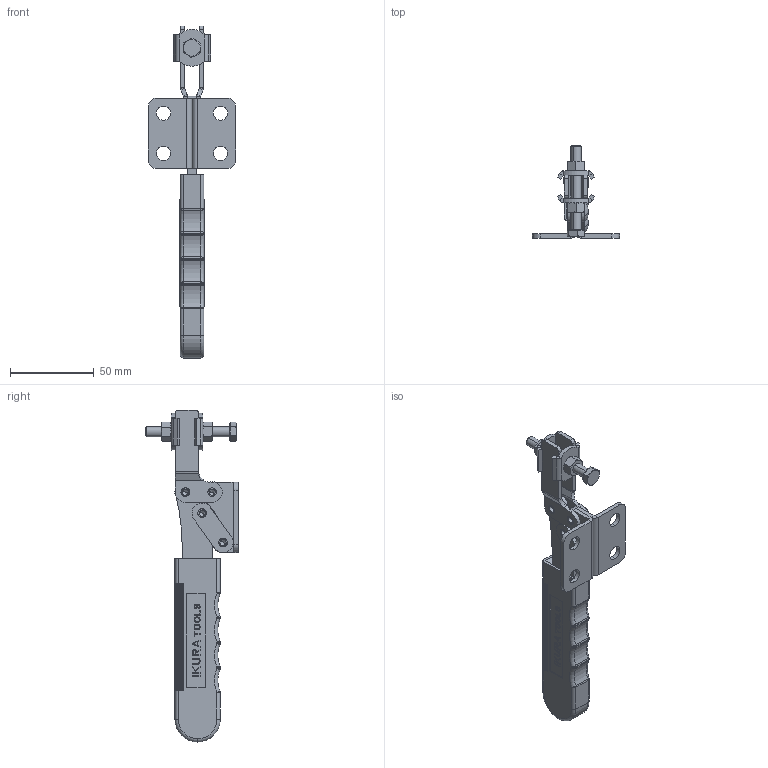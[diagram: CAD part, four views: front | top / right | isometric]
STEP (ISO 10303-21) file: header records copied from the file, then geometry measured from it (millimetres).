
FILE_DESCRIPTION (( 'STEP AP214' ), '1' );
FILE_NAME ('ISK-38B小０.STEP', '2015-06-29T09:56:23', ( '' ), ( '' ), 'SwSTEP 2.0', 'SolidWorks 2015', '' );
FILE_SCHEMA (( 'AUTOMOTIVE_DESIGN' ));
Length unit declared in the file: millimetre
Products named in the file (12): Link; Base-R; ISK-38B小０; truss head semi-tubuar rivets gb_GB_RIVETS_ROUND_TYPE90 5X10; hexagon nut style 2_ab_jis_JIS B 1181 Hexagon nut - style 2 A M6 - D --N; continuous thread hexagon head bolt_a_jis_JIS B 1180 Continuous thread hexagon head bolt A M6 x 50 --N; Washer_D6-15; Base-L; Grip; Handle; Arm-L; Arm-R
Assembly tree (17 placements, depth 2):
  ISK-38B小０
    Base-R
    Link  x2
    Arm-R
    Arm-L
    Handle
    Grip
    Base-L
    Washer_D6-15  x2
    continuous thread hexagon head bolt_a_jis_JIS B 1180 Continuous thread hexagon head bolt A M6 x 50 --N
    hexagon nut style 2_ab_jis_JIS B 1181 Hexagon nut - style 2 A M6 - D --N  x2
    truss head semi-tubuar rivets gb_GB_RIVETS_ROUND_TYPE90 5X10  x4
Bounding box: 52 x 55.02 x 198 mm (x, y, z)
Volume: 60040 mm3; surface area: 37560.4 mm2
Topology: 17 solids, 17 shells, 1506 faces, 4122 edges, 2666 vertices
Faces by surface type: plane 852, cylinder 404, bspline 156, cone 48, sphere 24, torus 22
Entity records: 51266 total; most frequent: CARTESIAN_POINT 15216, ORIENTED_EDGE 7772, DIRECTION 6888, EDGE_CURVE 3886, VECTOR 2716, LINE 2716, VERTEX_POINT 2538, AXIS2_PLACEMENT_3D 2086
